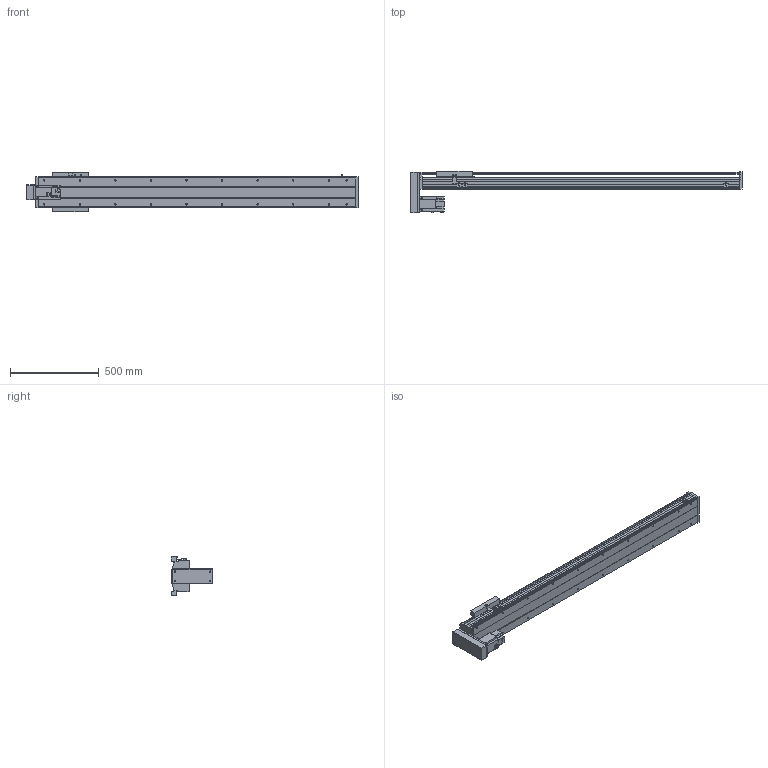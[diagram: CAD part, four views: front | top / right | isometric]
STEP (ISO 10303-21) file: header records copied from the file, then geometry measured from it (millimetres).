
FILE_DESCRIPTION(/* description */ ('STEP AP214'),/* implementation_level */ '2;1');
FILE_NAME(/* name */ 'PSS200-L10-S1450-BM-T75-C1-N(0)',/* time_stamp */ '2022-06-29T09:55:31+02:00',/* author */ ('License CC BY-ND 4.0'),/* organization */ ('CADENAS'),/* preprocessor_version */ 'ST-DEVELOPER v18.102',/* originating_system */ 'PARTsolutions',/* authorisation */ ' ');
FILE_SCHEMA (('AUTOMOTIVE_DESIGN {1 0 10303 214 3 1 1}'));
Length unit declared in the file: millimetre
Products named in the file (8): PSS200-L10-S1450-BM-T75-C1-N(0); PSS200-S1450-BM-N_S; T75-p1; PSS200BM-N_h; PSS200-N_sensor; PSS200-BM-C1-N_sl; PSS200-N_Q; PSS200-S1450-BM-C1-N_body
Assembly tree (9 placements, depth 2):
  PSS200-L10-S1450-BM-T75-C1-N(0)
    PSS200-S1450-BM-N_S
    T75-p1
    PSS200BM-N_h
    PSS200-N_sensor  x3
    PSS200-BM-C1-N_sl
    PSS200-N_Q
    PSS200-S1450-BM-C1-N_body
Bounding box: 1866.85 x 234.45 x 223.86 mm (x, y, z)
Volume: 11257215.2 mm3; surface area: 2839658.3 mm2
Topology: 9 solids, 9 shells, 614 faces, 1649 edges, 1094 vertices
Faces by surface type: plane 452, cylinder 130, cone 28, sphere 4
Full cylindrical faces by diameter (mm): 4 x2, 4.5 x4, 6 x7, 6.647 x24, 7.4 x4, 8 x8, 10 x6, 25 x1, 40 x1, 67 x1
Entity records: 17068 total; most frequent: CARTESIAN_POINT 2949, DIRECTION 2827, ORIENTED_EDGE 2770, EDGE_CURVE 1385, LINE 1071, VECTOR 1071, VERTEX_POINT 968, AXIS2_PLACEMENT_3D 878
